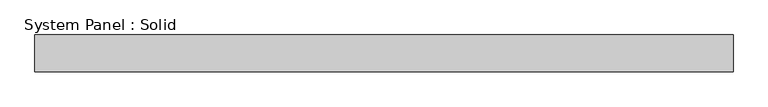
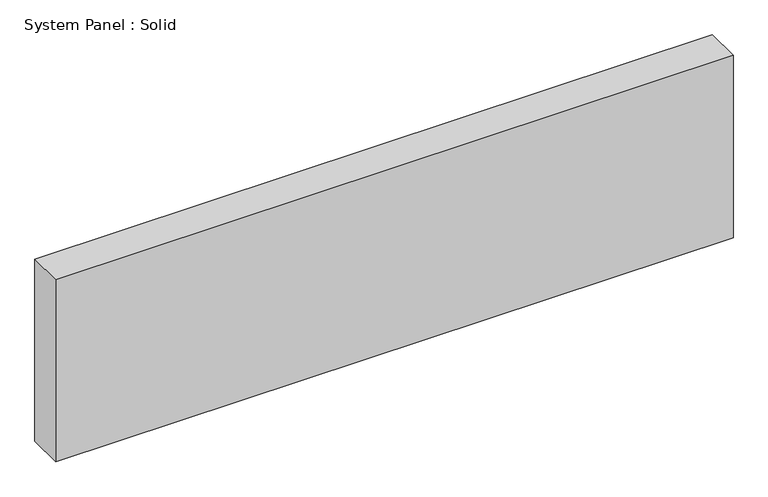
"""IFC4 building model written with IfcOpenShell, lengths in millimetres: plate geometry, System Panel : Solid."""

import ifcopenshell
import ifcopenshell.guid

model = None  # the IFC model being written
_history = None  # IfcOwnerHistory: only IFC2X3 demands one
_inside = {}  # id of a spatial element -> (the spatial element, [elements in it])
_under = {}  # id of a project, library or spatial element -> (it, [spatial elements below it])
_declared = {}  # id of a project -> (the project, [libraries it declares])
_typed = {}  # id of a type object -> (the type object, [elements of that type])
_made_of = {}  # id of a material, layer set ... -> (it, [elements and type objects made of it])


def new_model(schema):
    """Start an empty IFC model of exactly this schema.

    Asked for "IFC4X3", IfcOpenShell would pick the latest addendum, in which some entities
    have other attributes; the version numbers below select the first issue.
    IFC2X3 requires an IfcOwnerHistory on every rooted entity: one is made here for all.
    """
    global model, _history
    if schema == "IFC4X3":
        model = ifcopenshell.file(schema_version=(4, 3, 0, 0))
    else:
        model = ifcopenshell.file(schema=schema)
    _inside.clear()
    _under.clear()
    _declared.clear()
    _typed.clear()
    _made_of.clear()
    _history = None
    if model.schema == "IFC2X3":
        org = make("IfcOrganization", Name="unknown")
        user = make(
            "IfcPersonAndOrganization",
            ThePerson=make("IfcPerson", FamilyName="unknown"),
            TheOrganization=org,
        )
        app = make(
            "IfcApplication",
            ApplicationDeveloper=org,
            Version="unknown",
            ApplicationFullName="unknown",
            ApplicationIdentifier="unknown",
        )
        _history = make(
            "IfcOwnerHistory",
            OwningUser=user,
            OwningApplication=app,
            ChangeAction="ADDED",
            CreationDate=0,
        )
    return model


def make(cls, **values):
    """One entity of the class cls with the attributes given. An attribute that is None is left unset."""
    return model.create_entity(
        cls, **{name: value for name, value in values.items() if value is not None}
    )


def rooted(cls, **values):
    """An entity with a GlobalId (a new one), such as an element, a storey or a relation."""
    return make(cls, GlobalId=ifcopenshell.guid.new(), OwnerHistory=_history, **values)


def si_unit(unit_type, name, prefix=None):
    """IfcSIUnit, for example si_unit("LENGTHUNIT", "METRE", prefix="MILLI")."""
    return make("IfcSIUnit", UnitType=unit_type, Prefix=prefix, Name=name)


def assignment(units):
    """IfcUnitAssignment: the units of a project."""
    return None if units is None else make("IfcUnitAssignment", Units=units)


def point(xyz):
    """IfcCartesianPoint."""
    return None if xyz is None else make("IfcCartesianPoint", Coordinates=xyz)


def direction(xyz):
    """IfcDirection."""
    return None if xyz is None else make("IfcDirection", DirectionRatios=xyz)


def frame(location, z_axis=None, x_axis=None):
    """IfcAxis2Placement3D, a coordinate frame: its origin and axes. An axis left out is left unset."""
    return make(
        "IfcAxis2Placement3D",
        Location=point(location),
        Axis=direction(z_axis),
        RefDirection=direction(x_axis),
    )


def origin():
    """The frame at (0, 0, 0) with its axes left unset."""
    return frame((0.0, 0.0, 0.0))


def origin_with_axes():
    """The frame at (0, 0, 0) with the z axis (0, 0, 1) and the x axis (1, 0, 0) written out."""
    return frame((0.0, 0.0, 0.0), z_axis=(0.0, 0.0, 1.0), x_axis=(1.0, 0.0, 0.0))


def place(relative_to, where):
    """IfcLocalPlacement: puts the frame where relative to a parent placement (None: the world)."""
    return make(
        "IfcLocalPlacement", PlacementRelTo=relative_to, RelativePlacement=where
    )


def context(
    kind, dimensions, precision=None, world=None, true_north=None, identifier=None
):
    """IfcGeometricRepresentationContext, for example the 3D "Model" context."""
    return make(
        "IfcGeometricRepresentationContext",
        ContextIdentifier=identifier,
        ContextType=kind,
        CoordinateSpaceDimension=dimensions,
        Precision=precision,
        WorldCoordinateSystem=world,
        TrueNorth=true_north,
    )


def project(units=None, contexts=None):
    """IfcProject with its units and contexts."""
    return rooted(
        "IfcProject",
        Name="project",
        RepresentationContexts=contexts,
        UnitsInContext=assignment(units),
    )


def spatial(cls, under=None, at=None, **own):
    """A site, building, storey or space (cls), placed at a placement, below another one or the project."""
    s = rooted(cls, ObjectPlacement=at, **own)
    if under is not None:
        _under.setdefault(under.id(), (under, []))[1].append(s)
    return s


def polyline(points):
    """IfcPolyline through the points."""
    return make("IfcPolyline", Points=[point(p) for p in points])


def outline(outer, holes=None, kind="AREA"):
    """IfcArbitraryClosedProfileDef: a profile drawn as a closed curve; with holes, ...WithVoids."""
    if holes is None:
        return make("IfcArbitraryClosedProfileDef", ProfileType=kind, OuterCurve=outer)
    return make(
        "IfcArbitraryProfileDefWithVoids",
        ProfileType=kind,
        OuterCurve=outer,
        InnerCurves=holes,
    )


def extrude(swept, where, along, depth):
    """IfcExtrudedAreaSolid: the profile swept, set in the frame where, extruded along a direction by depth."""
    return make(
        "IfcExtrudedAreaSolid",
        SweptArea=swept,
        Position=where,
        ExtrudedDirection=direction(along),
        Depth=depth,
    )


def shape(context_of_items, identifier, shape_type, items):
    """IfcShapeRepresentation: the items that make up one representation, for example the "Body"."""
    return make(
        "IfcShapeRepresentation",
        ContextOfItems=context_of_items,
        RepresentationIdentifier=identifier,
        RepresentationType=shape_type,
        Items=items,
    )


def source(mapping_origin, context_of_items, identifier, shape_type, items):
    """IfcRepresentationMap: a shape defined once, which mapped items show again and again."""
    return make(
        "IfcRepresentationMap",
        MappingOrigin=mapping_origin,
        MappedRepresentation=shape(context_of_items, identifier, shape_type, items),
    )


def transform(
    local_origin,
    x_axis=None,
    y_axis=None,
    z_axis=None,
    scale=None,
    scale2=None,
    scale3=None,
    uniform=True,
):
    """IfcCartesianTransformationOperator3D, or its non-uniform kind. x_axis, y_axis, z_axis: its Axis1, 2, 3."""
    if uniform:
        return make(
            "IfcCartesianTransformationOperator3D",
            Axis1=direction(x_axis),
            Axis2=direction(y_axis),
            LocalOrigin=point(local_origin),
            Scale=scale,
            Axis3=direction(z_axis),
        )
    return make(
        "IfcCartesianTransformationOperator3DnonUniform",
        Axis1=direction(x_axis),
        Axis2=direction(y_axis),
        LocalOrigin=point(local_origin),
        Scale=scale,
        Axis3=direction(z_axis),
        Scale2=scale2,
        Scale3=scale3,
    )


def mapped(mapping_source, mapping_target):
    """IfcMappedItem: shows the shape of a source again, moved by a transform."""
    return make(
        "IfcMappedItem", MappingSource=mapping_source, MappingTarget=mapping_target
    )


def made_of(thing, what):
    """Note that an element or type object is made of a material, layer set ...; save() writes the relation."""
    if what is not None:
        _made_of.setdefault(what.id(), (what, []))[1].append(thing)
    return thing


def element(
    cls,
    number,
    at=None,
    inside=None,
    cuts=None,
    type_object=None,
    material=None,
    context=None,
    identifier="Body",
    shape_type=None,
    held_by="IfcProductDefinitionShape",
    body=None,
    shapes=None,
    **own,
):
    """One element of the class cls, such as IfcWall. Its Tag is "e" and its number.

    at: its placement. inside: the storey or other place that contains it. cuts: it is an
    opening in that element (IfcRelVoidsElement). A single representation is given by context,
    identifier, shape_type and body (its items); several are given by shapes. held_by: the class
    of the entity that holds the representations. save() writes the other relations.
    """
    e = rooted(cls, Tag="e%d" % number, ObjectPlacement=at, **own)
    if body is not None:
        shapes = [shape(context, identifier, shape_type, body)]
    if shapes is not None:
        e.Representation = make(held_by, Representations=shapes)
    if inside is not None:
        _inside.setdefault(inside.id(), (inside, []))[1].append(e)
    if cuts is not None:
        rooted(
            "IfcRelVoidsElement", RelatingBuildingElement=cuts, RelatedOpeningElement=e
        )
    if type_object is not None:
        _typed.setdefault(type_object.id(), (type_object, []))[1].append(e)
    return made_of(e, material)


def aggregate(whole, parts):
    """IfcRelAggregates: a whole, such as a stair, and the parts it consists of."""
    return rooted("IfcRelAggregates", RelatingObject=whole, RelatedObjects=parts)


def save(model, path):
    """Write the relations noted so far, then the file.

    IfcRelAggregates (storeys below a building ...), IfcRelContainedInSpatialStructure (elements
    in a storey), IfcRelDefinesByType, IfcRelAssociatesMaterial and IfcRelDeclares: one each for
    every whole, place, type object, material and project.
    """
    for whole, parts in _under.values():
        aggregate(whole, parts)
    for where, things in _inside.values():
        rooted(
            "IfcRelContainedInSpatialStructure",
            RelatedElements=things,
            RelatingStructure=where,
        )
    for kind, things in _typed.values():
        rooted("IfcRelDefinesByType", RelatedObjects=things, RelatingType=kind)
    for what, things in _made_of.values():
        rooted("IfcRelAssociatesMaterial", RelatedObjects=things, RelatingMaterial=what)
    for by, libraries in _declared.values():
        rooted("IfcRelDeclares", RelatingContext=by, RelatedDefinitions=libraries)
    model.write(path)


def system_panel_solid_cdb325b2(model_context):
    return source(origin(), model_context, "Body", "SweptSolid", [
        extrude(outline(polyline([(600.1804533, -19.05), (-600.1804533, -19.05), (-600.1804533, 44.45), (600.1804533, 44.45), (600.1804533, -19.05)])), origin_with_axes(), (0.0, 0.0, 1.0), 341.0388226),
    ])


if __name__ == "__main__":
    model = new_model("IFC4")
    model_context = context("Model", 3, world=origin())
    ifc_project = project(units=[si_unit("LENGTHUNIT", "METRE", prefix="MILLI")], contexts=[model_context])
    site = spatial("IfcSite", under=ifc_project)
    building = spatial("IfcBuilding", under=site)
    placement = place(None, origin())
    system_panel_solid_shape = system_panel_solid_cdb325b2(model_context)
    element("IfcPlate", 1, ObjectType="System Panel : Solid", at=placement, inside=building, context=model_context, shape_type="MappedRepresentation", body=[
        mapped(system_panel_solid_shape, transform((0.0, 0.0, 0.0), x_axis=(1.0, 0.0, 0.0), y_axis=(0.0, 1.0, 0.0), z_axis=(0.0, 0.0, 1.0))),
    ])
    save(model, "model.ifc")
